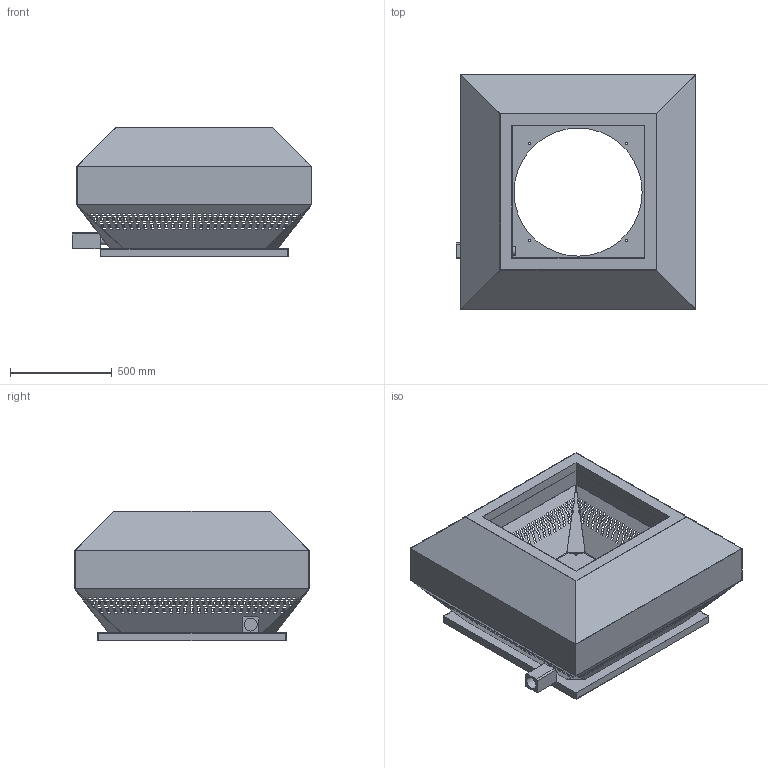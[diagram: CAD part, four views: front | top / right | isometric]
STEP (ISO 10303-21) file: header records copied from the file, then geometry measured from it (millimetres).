
FILE_DESCRIPTION(/* description */ (''),/* implementation_level */ '2;1');
FILE_NAME(/* name */ 'Z:\Output\RDD_630-6-07447-001.stp',/* time_stamp */ '2020-06-25T17:01:41+02:00',/* author */ ('engineering1'),/* organization */ (''),/* preprocessor_version */ 'ST-DEVELOPER v17.2',/* originating_system */ 'Autodesk Inventor 2019',/* authorisation */ '');
FILE_SCHEMA (('AUTOMOTIVE_DESIGN { 1 0 10303 214 3 1 1 }'));
Products named in the file (1): RD-2
Bounding box: 1176 x 1155 x 638 mm (x, y, z)
Volume: 9257688.9 mm3; surface area: 7851294.5 mm2
Topology: 1 solids, 1 shells, 3851 faces, 11618 edges, 7716 vertices
Faces by surface type: plane 3835, cylinder 16
Full cylindrical faces by diameter (mm): 10 x8, 14 x4, 42.533 x2, 63.8 x1, 630 x1
Entity records: 133166 total; most frequent: ORIENTED_EDGE 23236, CARTESIAN_POINT 23186, DIRECTION 19370, EDGE_CURVE 11618, LINE 11570, VECTOR 11570, VERTEX_POINT 7716, EDGE_LOOP 5692
